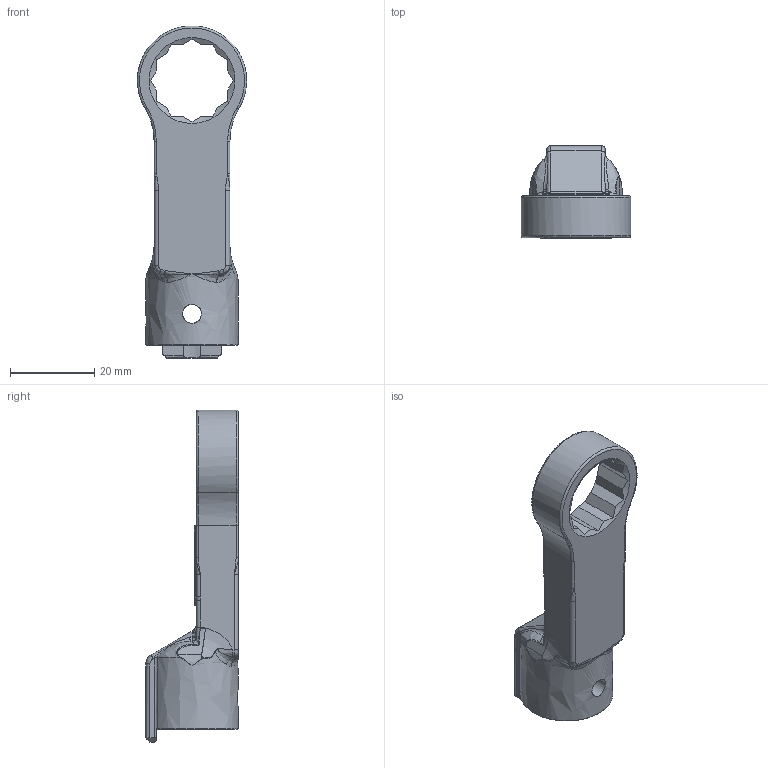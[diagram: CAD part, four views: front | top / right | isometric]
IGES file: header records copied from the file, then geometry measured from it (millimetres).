
Global section: file name: RH15DX17; native system: Autodesk Inventor 2016; preprocessor: unknown; author: Q600; date: 20151110.161245; units: millimetre
Bounding box: 26 x 22 x 78.97 mm (x, y, z)
Volume: 12976.1 mm3; surface area: 6351.2 mm2
Topology: 1 solids, 1 shells, 197 faces, 503 edges, 289 vertices
Faces by surface type: bspline 197
